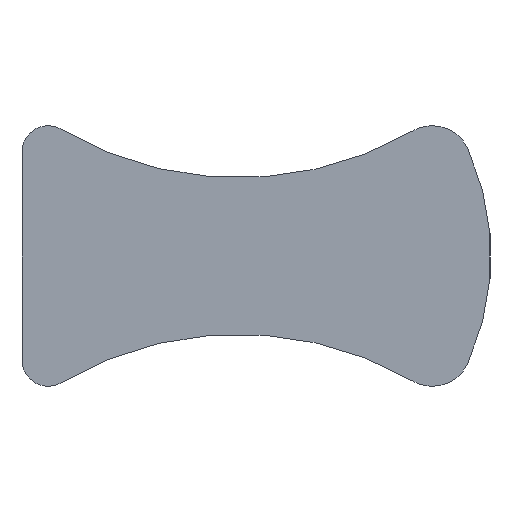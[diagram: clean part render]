
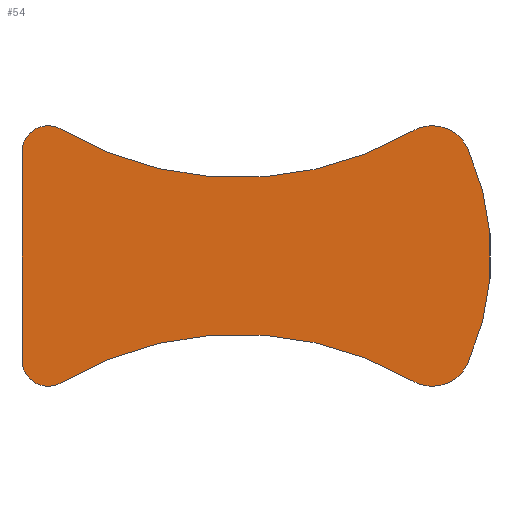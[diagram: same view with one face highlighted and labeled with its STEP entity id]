
A CAD part, left-side view. The second image highlights one B-rep face of the part: STEP entity #54.
In plain terms, the highlighted planar face has unit normal (-1, 0, 0).
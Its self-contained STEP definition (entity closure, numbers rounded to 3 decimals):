
#54 = ADVANCED_FACE( '', ( #111 ), #112, .F. );
#111 = FACE_OUTER_BOUND( '', #164, .T. );
#112 = PLANE( '', #165 );
#164 = EDGE_LOOP( '', ( #242, #243, #244, #245, #246, #247, #248, #249 ) );
#165 = AXIS2_PLACEMENT_3D( '', #250, #251, #252 );
#242 = ORIENTED_EDGE( '', *, *, #297, .F. );
#243 = ORIENTED_EDGE( '', *, *, #304, .F. );
#244 = ORIENTED_EDGE( '', *, *, #316, .T. );
#245 = ORIENTED_EDGE( '', *, *, #308, .F. );
#246 = ORIENTED_EDGE( '', *, *, #323, .F. );
#247 = ORIENTED_EDGE( '', *, *, #324, .F. );
#248 = ORIENTED_EDGE( '', *, *, #325, .T. );
#249 = ORIENTED_EDGE( '', *, *, #319, .F. );
#250 = CARTESIAN_POINT( '', ( -12., -1., 4. ) );
#251 = DIRECTION( '', ( 1., 0., 0. ) );
#252 = DIRECTION( '', ( 0., 0., -1. ) );
#297 = EDGE_CURVE( '', #341, #342, #343, .T. );
#304 = EDGE_CURVE( '', #353, #341, #354, .T. );
#308 = EDGE_CURVE( '', #359, #360, #361, .T. );
#316 = EDGE_CURVE( '', #353, #360, #372, .T. );
#319 = EDGE_CURVE( '', #342, #375, #376, .T. );
#323 = EDGE_CURVE( '', #381, #359, #382, .T. );
#324 = EDGE_CURVE( '', #383, #381, #384, .T. );
#325 = EDGE_CURVE( '', #383, #375, #385, .T. );
#341 = VERTEX_POINT( '', #403 );
#342 = VERTEX_POINT( '', #404 );
#343 = LINE( '', #405, #406 );
#353 = VERTEX_POINT( '', #419 );
#354 = CIRCLE( '', #420, 1. );
#359 = VERTEX_POINT( '', #426 );
#360 = VERTEX_POINT( '', #427 );
#361 = CIRCLE( '', #428, 1.5 );
#372 = CIRCLE( '', #441, 13.34 );
#375 = VERTEX_POINT( '', #444 );
#376 = CIRCLE( '', #445, 1. );
#381 = VERTEX_POINT( '', #451 );
#382 = CIRCLE( '', #452, 10. );
#383 = VERTEX_POINT( '', #453 );
#384 = CIRCLE( '', #454, 1.5 );
#385 = CIRCLE( '', #455, 13.34 );
#403 = CARTESIAN_POINT( '', ( -12., 0., -4. ) );
#404 = CARTESIAN_POINT( '', ( -12., 0., 4. ) );
#405 = CARTESIAN_POINT( '', ( -12., 0., -4. ) );
#406 = VECTOR( '', #476, 1000. );
#419 = CARTESIAN_POINT( '', ( -12., -1.509, -4.861 ) );
#420 = AXIS2_PLACEMENT_3D( '', #483, #484, #485 );
#426 = CARTESIAN_POINT( '', ( -12., -17.113, -4.118 ) );
#427 = CARTESIAN_POINT( '', ( -12., -14.994, -4.798 ) );
#428 = AXIS2_PLACEMENT_3D( '', #490, #491, #492 );
#441 = AXIS2_PLACEMENT_3D( '', #501, #502, #503 );
#444 = CARTESIAN_POINT( '', ( -12., -1.509, 4.861 ) );
#445 = AXIS2_PLACEMENT_3D( '', #507, #508, #509 );
#451 = CARTESIAN_POINT( '', ( -12., -17.113, 4.118 ) );
#452 = AXIS2_PLACEMENT_3D( '', #514, #515, #516 );
#453 = CARTESIAN_POINT( '', ( -12., -14.994, 4.798 ) );
#454 = AXIS2_PLACEMENT_3D( '', #517, #518, #519 );
#455 = AXIS2_PLACEMENT_3D( '', #520, #521, #522 );
#476 = DIRECTION( '', ( 0., 0., 1. ) );
#483 = CARTESIAN_POINT( '', ( -12., -1., -4. ) );
#484 = DIRECTION( '', ( 1., 0., 0. ) );
#485 = DIRECTION( '', ( 0., 0., -1. ) );
#490 = CARTESIAN_POINT( '', ( -12., -15.746, -3.5 ) );
#491 = DIRECTION( '', ( 1., 0., 0. ) );
#492 = DIRECTION( '', ( 0., 0., -1. ) );
#501 = CARTESIAN_POINT( '', ( -12., -8.305, -16.34 ) );
#502 = DIRECTION( '', ( 1., 0., 0. ) );
#503 = DIRECTION( '', ( 0., 0., -1. ) );
#507 = CARTESIAN_POINT( '', ( -12., -1., 4. ) );
#508 = DIRECTION( '', ( 1., 0., 0. ) );
#509 = DIRECTION( '', ( 0., 0., -1. ) );
#514 = CARTESIAN_POINT( '', ( -12., -8., 0. ) );
#515 = DIRECTION( '', ( 1., 0., 0. ) );
#516 = DIRECTION( '', ( 0., 0., -1. ) );
#517 = CARTESIAN_POINT( '', ( -12., -15.746, 3.5 ) );
#518 = DIRECTION( '', ( 1., 0., 0. ) );
#519 = DIRECTION( '', ( 0., 0., -1. ) );
#520 = CARTESIAN_POINT( '', ( -12., -8.305, 16.34 ) );
#521 = DIRECTION( '', ( 1., 0., 0. ) );
#522 = DIRECTION( '', ( 0., 0., -1. ) );
